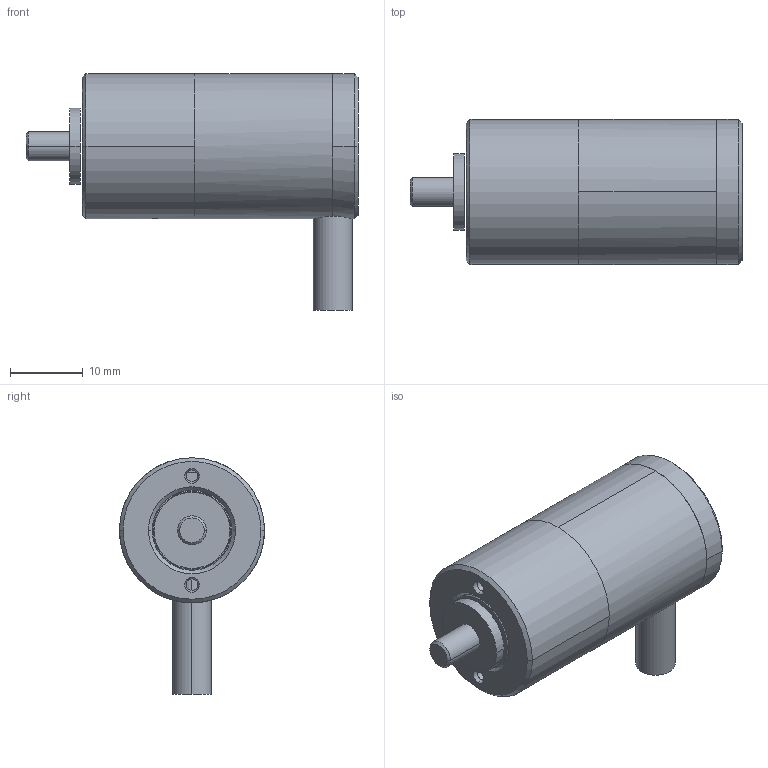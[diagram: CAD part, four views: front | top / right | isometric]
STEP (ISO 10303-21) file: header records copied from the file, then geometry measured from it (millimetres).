
FILE_DESCRIPTION (( 'STEP AP214' ), '1' );
FILE_NAME ('ﾋﾈﾐ-120ﾁ.STEP', '2017-05-23T08:44:29', ( '' ), ( '' ), 'SwSTEP 2.0', 'SolidWorks 2013', '' );
FILE_SCHEMA (( 'AUTOMOTIVE_DESIGN' ));
Length unit declared in the file: millimetre
Products named in the file (1): ﾋﾈﾐ-120ﾁ
Bounding box: 45.77 x 20 x 32.59 mm (x, y, z)
Surface area: 4390.8 mm2 (no closed solid volume)
Topology: 0 solids, 11 shells, 75 faces, 247 edges, 180 vertices
Faces by surface type: cylinder 24, cone 23, plane 22, torus 6
Entity records: 3856 total; most frequent: CARTESIAN_POINT 876, DIRECTION 469, ORIENTED_EDGE 379, EDGE_CURVE 247, AXIS2_PLACEMENT_3D 201, VERTEX_POINT 180, CIRCLE 125, EDGE_LOOP 89
